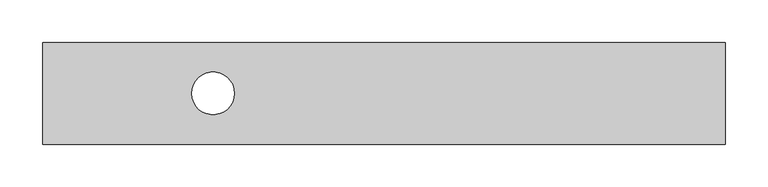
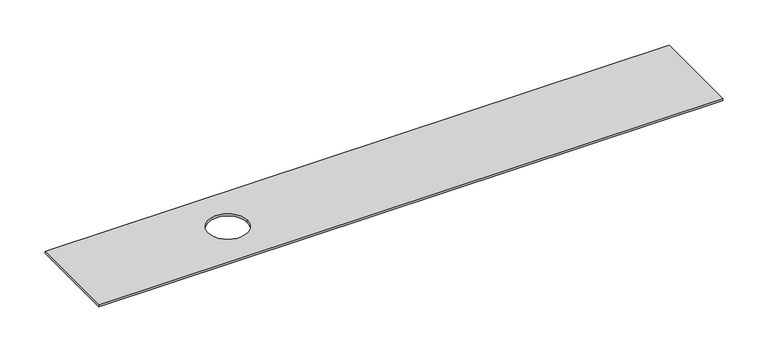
"""IFC4 building model written with IfcOpenShell, lengths in millimetres: proxy geometry, Electrical_Installation_Hager_Cover-GBZ-BKA : Electrical_Installation_Hager_Cover-GBZ-BKA."""

from ifc_helpers import new_model, si_unit, point, frame, frame_2d, origin, place, context, project, spatial, polyline, circle_curve, trimmed, segment, composite_curve, outline, extrude, source, transform, mapped, element, save


def electrical_fixtures_3d1c5f92(model_context):
    return source(origin(), model_context, "Body", "SweptSolid", [
        extrude(outline(polyline([(800.0, 59.75), (800.0, -59.75), (0.0, -59.75), (0.0, 59.75), (800.0, 59.75)]), holes=[composite_curve([segment(trimmed(circle_curve(frame_2d((199.7148726, 0.0)), 25.0), [point((174.7148726, 0.0))], [point((224.7148726, 0.0))], True, "CARTESIAN"), True, "CONTINUOUS"), segment(trimmed(circle_curve(frame_2d((199.7148726, 0.0)), 25.0), [point((224.7148726, 0.0))], [point((174.7148726, 0.0))], True, "CARTESIAN"), True, "CONTINUOUS")], self_intersect=False)]), frame((0.0, 0.0, 10.0), z_axis=(0.0, 0.0, 1.0), x_axis=(1.0, 0.0, 0.0)), (0.0, 0.0, 1.0), 3.0),
    ])


if __name__ == "__main__":
    model = new_model("IFC4")
    model_context = context("Model", 3, world=origin())
    ifc_project = project(units=[si_unit("LENGTHUNIT", "METRE", prefix="MILLI")], contexts=[model_context])
    site = spatial("IfcSite", under=ifc_project)
    building = spatial("IfcBuilding", under=site)
    placement = place(None, origin())
    electrical_fixtures_shape = electrical_fixtures_3d1c5f92(model_context)
    element("IfcBuildingElementProxy", 1, Name="Electrical_Installation_Hager_Cover-GBZ-BKA : Electrical_Installation_Hager_Cover-GBZ-BKA", ObjectType="Electrical_Installation_Hager_Cover-GBZ-BKA : Electrical_Installation_Hager_Cover-GBZ-BKA", at=placement, inside=building, context=model_context, shape_type="MappedRepresentation", body=[
        mapped(electrical_fixtures_shape, transform((0.0, 0.0, 0.0), x_axis=(1.0, 0.0, 0.0), y_axis=(0.0, 1.0, 0.0), z_axis=(0.0, 0.0, 1.0))),
    ])
    save(model, "model.ifc")
